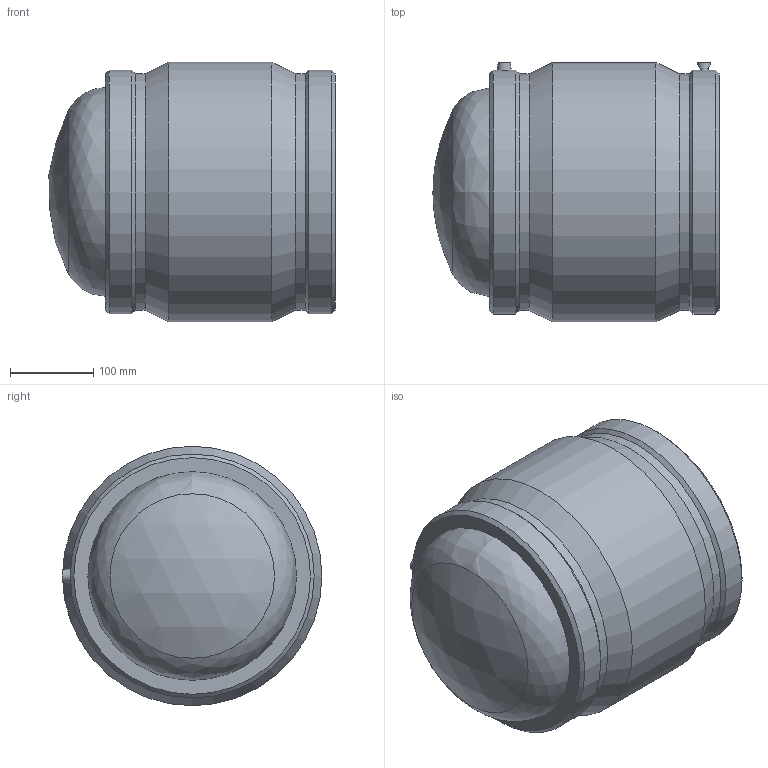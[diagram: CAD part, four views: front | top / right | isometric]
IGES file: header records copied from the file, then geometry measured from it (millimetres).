
Global section: file name: 491204250.ipt; native system: Autodesk Inventor 2015; preprocessor: unknown; author: KIM; date: 20171106.093802; units: millimetre
Bounding box: 342.99 x 311.5 x 311 mm (x, y, z)
Volume: 9766168.4 mm3; surface area: 636177 mm2
Topology: 2 solids, 3 shells, 40 faces, 84 edges, 58 vertices
Faces by surface type: plane 12, revolution 11, cylinder 8, cone 8, sphere 1
Full cylindrical faces by diameter (mm): 4 x2, 250 x1, 283.57 x2, 292.34 x2, 311 x1
